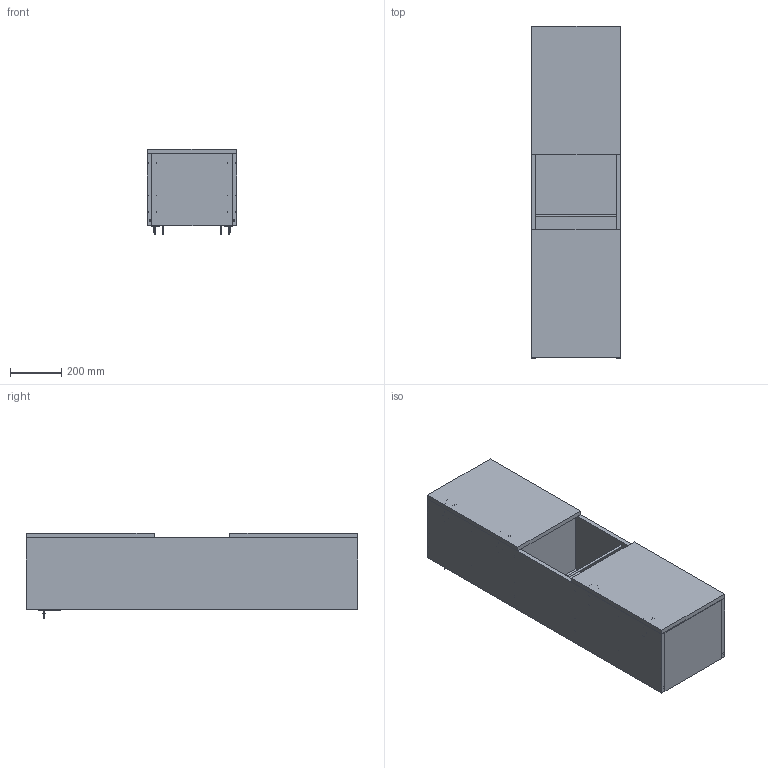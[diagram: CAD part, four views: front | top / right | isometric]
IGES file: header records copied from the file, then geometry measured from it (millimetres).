
Global section: file name: 3D Dosyası,; native system: Autodesk Inventor 2024; preprocessor: unknown; author: pc11; date: 20250708.104650; units: millimetre
Bounding box: 350 x 1300 x 336.1 mm (x, y, z)
Volume: 29558658 mm3; surface area: 4489555.9 mm2
Topology: 42 solids, 46 shells, 3449 faces, 9169 edges, 5837 vertices
Faces by surface type: bspline 3449
